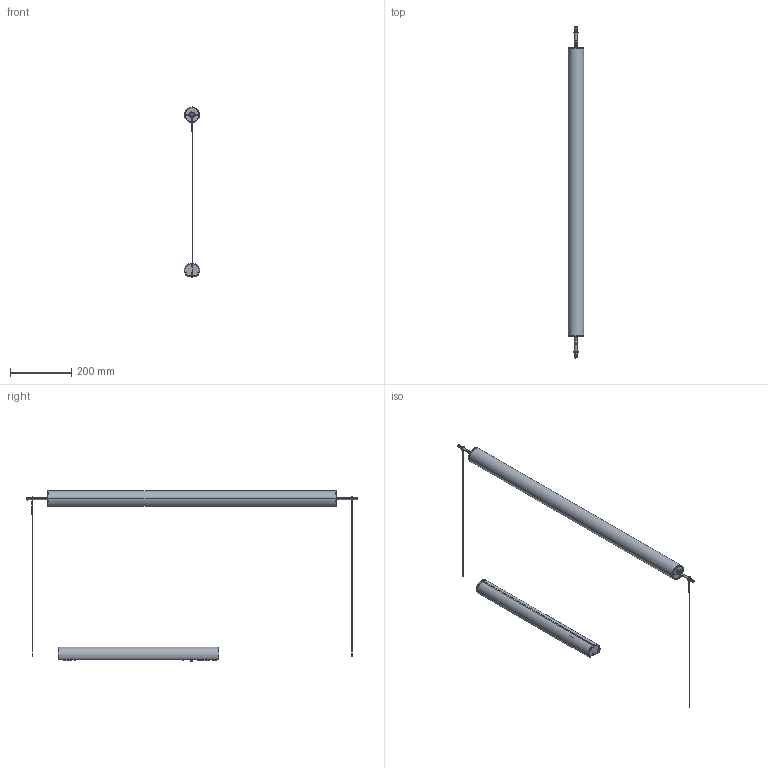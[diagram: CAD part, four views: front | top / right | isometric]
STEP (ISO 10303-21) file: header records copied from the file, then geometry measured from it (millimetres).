
FILE_DESCRIPTION((''),'2;1');
FILE_NAME('A1601005_ASM_SOSP-ORIZZ_ASM','2025-12-02T17:26:55',('GabrieleColombo'),(''),'CREO PARAMETRIC BY PTC INC, 2023494','CREO PARAMETRIC BY PTC INC, 2023494','');
FILE_SCHEMA(('CONFIG_CONTROL_DESIGN'));
Length unit declared in the file: millimetre
Products named in the file (45): A1607041_TUBO_SOSP_ORIZZ; A1607009_BUSSOLA_BARRA_QUADRA; A1607007_TIGE_M6_FIN; A1607011_TIGE_M6; A1607071_SCHEDA_SALDATURE_24V; A1607063_CIRCUITO_LED_SOSP; VITE_TSC_M2X4; A1606022_ASM-LIGHT-ENGINE-SUSP_ASM; A1607008_RACCORDO_BASSO; A1607036_STELO_70_SOSP; 850501602201_TAPPO-PASSACAVO; A1607012_RACCORDO_ALTO; A1606013_STELO-SOSP_ORIZZ_ASM; D8107025__FUNE_SOSP_INST; A1607060_DIFF_ORIZZ; A1607016_LANT_TAPP0001; A1607019_FILTRO-LED_A_TAV; A1607017_LANT_TAPP0001; A1607018_FILTRO-LED-B-TAV; A1606011_DIFF_SOSP-ORIZZ_ASM; A1607037_STELO_TERMINALE_SOSP; A1607077_STAFFA-ROSONE; A1607065_SCOCCA_ROSONE_SOSP_OR; 15016451_00; PASSACAVO-STEAB-6203-10; ESSENTRA-465903; VITE_TCC_M3X6_BRUN; A1607078_LAMIERINO-CHIUSURA; A1607079_STAFFA_L_MAGNETE; VITE_TCC_M3X6_ZINC; ROND_DENT_M3_ZINC; DADO_ESAG_UNI_5588_M3_ZINC; WAGO-L_TE_N; TRAVER-STEAB-5922; WAGO-221_2411; VITE_TCC_M3X5_ZINC; VITE_TSC_M3X8_ZINC; WAGO_221_412; VITE_TCC_M2_5X16_ZINC; DADO_ESAG_UNI_5588_M2-5_ZINC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
Assembly tree (68 placements, depth 4):
  A1601005_ASM_SOSP-ORIZZ_ASM
    A1606013_STELO-SOSP_ORIZZ_ASM
      A1606022_ASM-LIGHT-ENGINE-SUSP_ASM
        A1607041_TUBO_SOSP_ORIZZ
        A1607009_BUSSOLA_BARRA_QUADRA  x2
        A1607007_TIGE_M6_FIN
        A1607011_TIGE_M6
        A1607071_SCHEDA_SALDATURE_24V
        A1607063_CIRCUITO_LED_SOSP
        VITE_TSC_M2X4  x4
      A1607008_RACCORDO_BASSO
      A1607036_STELO_70_SOSP
      850501602201_TAPPO-PASSACAVO
      A1607012_RACCORDO_ALTO
    D8107025__FUNE_SOSP_INST  x2
    A1606011_DIFF_SOSP-ORIZZ_ASM
      A1607060_DIFF_ORIZZ
      A1607016_LANT_TAPP0001
      A1607019_FILTRO-LED_A_TAV
      A1607017_LANT_TAPP0001
      A1607018_FILTRO-LED-B-TAV
    A1607037_STELO_TERMINALE_SOSP
    A1606014_ROSONE_SOSP_ORIZZ_ASM
      A1607077_STAFFA-ROSONE
      A1607065_SCOCCA_ROSONE_SOSP_OR
      15016451_00
      PASSACAVO-STEAB-6203-10
      ESSENTRA-465903
      VITE_TCC_M3X6_BRUN
      A1607078_LAMIERINO-CHIUSURA
      A1607079_STAFFA_L_MAGNETE
      VITE_TCC_M3X6_ZINC  x2
      ROND_DENT_M3_ZINC  x6
      DADO_ESAG_UNI_5588_M3_ZINC  x8
      WAGO-L_TE_N
      TRAVER-STEAB-5922  x2
      WAGO-221_2411  x2
      VITE_TCC_M3X5_ZINC  x2
      VITE_TSC_M3X8_ZINC
      WAGO_221_412  x2
      VITE_TCC_M2_5X16_ZINC
      DADO_ESAG_UNI_5588_M2-5_ZINC
      VITE_TCC_M3X10_ZINC  x2
    D8107023__TUBETTO_FUNE_SOSP  x2
    A1607038_TAPPO_TERMINALE_SOSP
Bounding box: 50.5 x 1080.8 x 553.55 mm (x, y, z)
Volume: 307750.1 mm3; surface area: 867492.7 mm2
Topology: 68 solids, 85 shells, 5268 faces, 14360 edges, 9223 vertices
Faces by surface type: plane 3001, cylinder 1759, bspline 256, cone 128, sphere 58, torus 54, revolution 12
Entity records: 146232 total; most frequent: CARTESIAN_POINT 43333, ORIENTED_EDGE 21787, DIRECTION 20716, EDGE_CURVE 10932, VERTEX_POINT 6987, AXIS2_PLACEMENT_3D 6983, VECTOR 6738, LINE 6738
